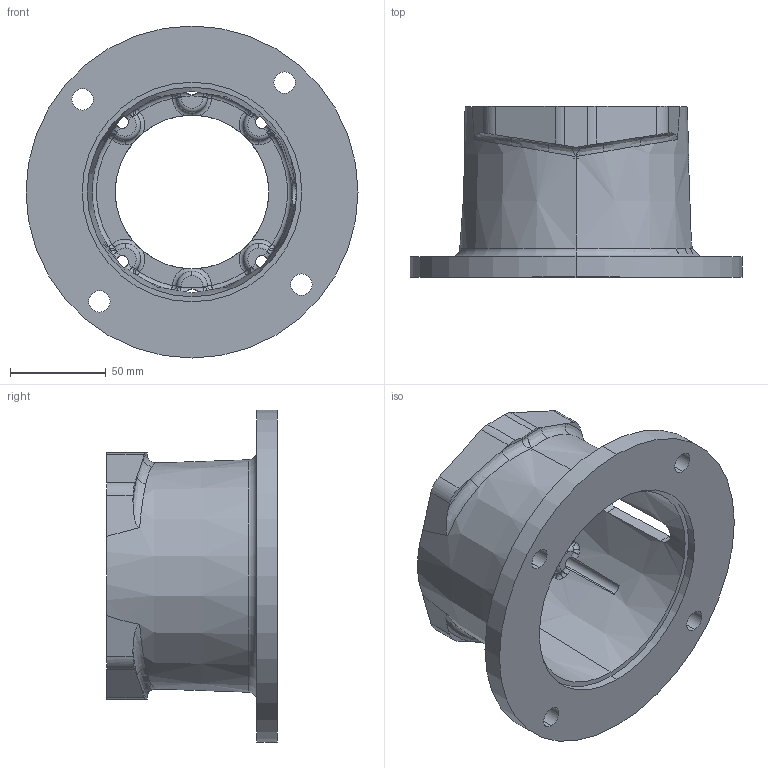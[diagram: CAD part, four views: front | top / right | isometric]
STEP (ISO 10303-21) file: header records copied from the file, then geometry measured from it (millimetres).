
FILE_DESCRIPTION (( 'STEP AP203' ), '1' );
FILE_NAME ('M0563580M.STEP', '2015-01-19T15:31:35', ( '' ), ( '' ), 'SwSTEP 2.0', 'SolidWorks 2014', '' );
FILE_SCHEMA (( 'CONFIG_CONTROL_DESIGN' ));
Length unit declared in the file: inch
Products named in the file (1): M0563580M
Bounding box: 172.97 x 88.9 x 172.97 mm (x, y, z)
Volume: 377230.6 mm3; surface area: 103319.5 mm2
Topology: 1 solids, 1 shells, 226 faces, 598 edges, 351 vertices
Faces by surface type: cylinder 50, bspline 50, torus 46, plane 36, sphere 24, cone 20
Entity records: 9290 total; most frequent: CARTESIAN_POINT 3983, ORIENTED_EDGE 1160, DIRECTION 1084, EDGE_CURVE 580, AXIS2_PLACEMENT_3D 491, VERTEX_POINT 351, CIRCLE 314, EDGE_LOOP 245
